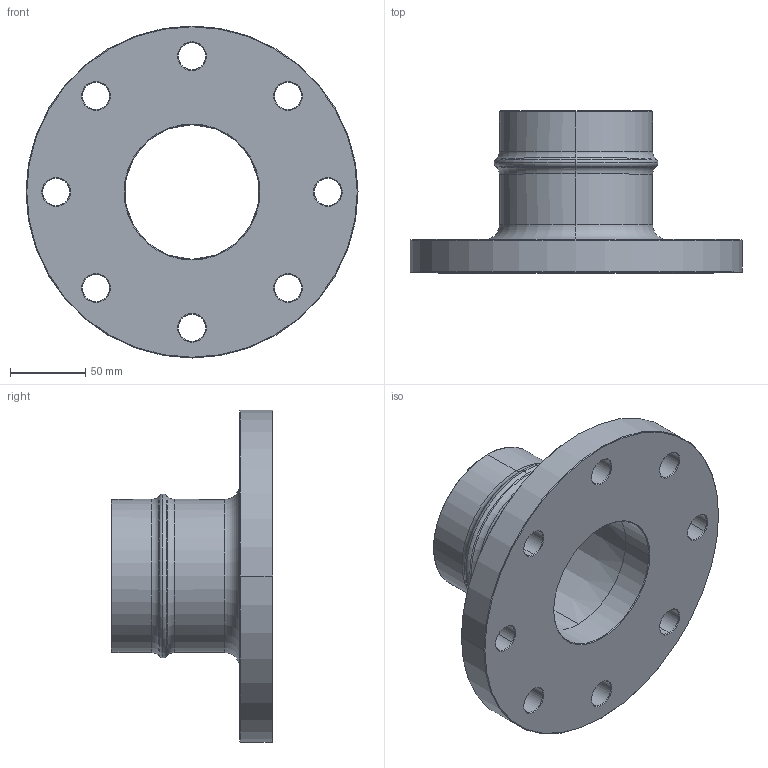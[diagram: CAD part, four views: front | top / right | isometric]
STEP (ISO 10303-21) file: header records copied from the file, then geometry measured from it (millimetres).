
FILE_DESCRIPTION((''),'2;1');
FILE_NAME('AU15817000','2019-12-13T',('Administrator'),(''),'PRO/ENGINEER BY PARAMETRIC TECHNOLOGY CORPORATION, 2009360','PRO/ENGINEER BY PARAMETRIC TECHNOLOGY CORPORATION, 2009360','');
FILE_SCHEMA(('AUTOMOTIVE_DESIGN_CC2 { 1 2 10303 214 -1 1 5 2 }'));
Length unit declared in the file: millimetre
Products named in the file (1): AU15817000
Bounding box: 220 x 107.25 x 220 mm (x, y, z)
Volume: 815282.5 mm3; surface area: 140654.9 mm2
Topology: 1 solids, 1 shells, 69 faces, 164 edges, 98 vertices
Faces by surface type: cone 28, cylinder 24, torus 14, plane 3
Entity records: 2577 total; most frequent: DIRECTION 414, CARTESIAN_POINT 331, ORIENTED_EDGE 328, AXIS2_PLACEMENT_3D 181, PRESENTATION_STYLE_ASSIGNMENT 165, STYLED_ITEM 165, CURVE_STYLE 164, EDGE_CURVE 164
